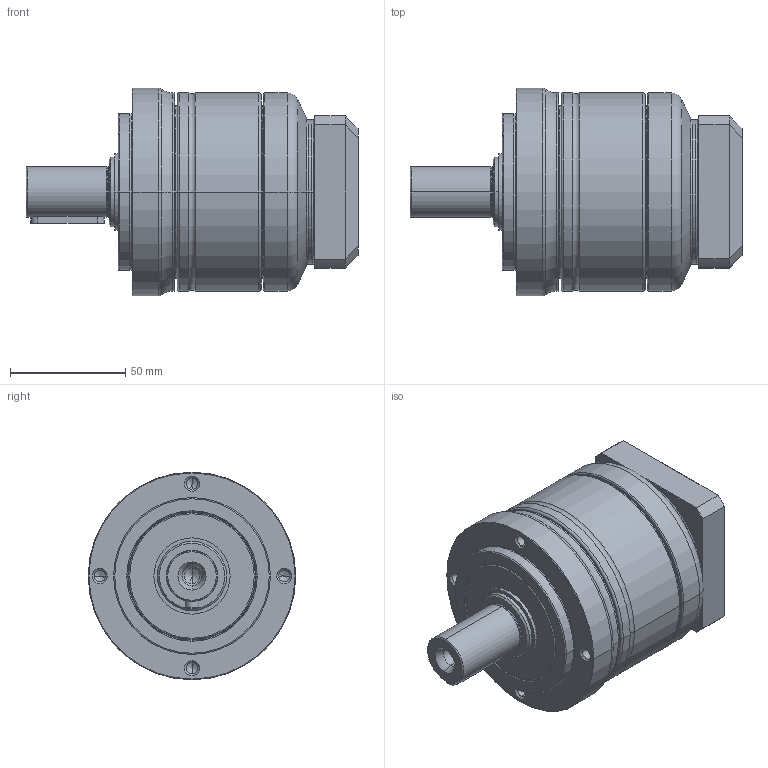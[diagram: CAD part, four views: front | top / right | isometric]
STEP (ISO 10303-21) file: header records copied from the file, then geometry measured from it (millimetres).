
FILE_DESCRIPTION((''),'2;1');
FILE_NAME('PE2-090_1ST_14-P0411300101_ASM','2017-05-26T',('d01943'),(''),'PRO/ENGINEER BY PARAMETRIC TECHNOLOGY CORPORATION, 2008410','PRO/ENGINEER BY PARAMETRIC TECHNOLOGY CORPORATION, 2008410','');
FILE_SCHEMA(('CONFIG_CONTROL_DESIGN'));
Length unit declared in the file: millimetre
Products named in the file (9): P1323310001; P0250300001; P1324300001; P0350301001; P0941300001; P0503300005; P0411300101; P1702300001; PE2-090_1ST_14-P0411300101_ASM
Assembly tree (8 placements, depth 2):
  PE2-090_1ST_14-P0411300101_ASM
    P1323310001
    P0250300001
    P1324300001
    P0350301001
    P0941300001
    P0503300005
    P0411300101
    P1702300001
Bounding box: 144 x 90 x 90 mm (x, y, z)
Volume: 447236.1 mm3; surface area: 107043.3 mm2
Topology: 8 solids, 8 shells, 465 faces, 1022 edges, 586 vertices
Faces by surface type: cone 138, cylinder 136, torus 98, plane 77, bspline 16
Entity records: 17194 total; most frequent: CARTESIAN_POINT 6751, DIRECTION 2379, ORIENTED_EDGE 1980, AXIS2_PLACEMENT_3D 1022, EDGE_CURVE 990, VERTEX_POINT 586, CIRCLE 556, EDGE_LOOP 526
